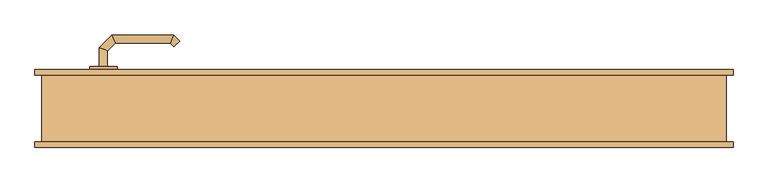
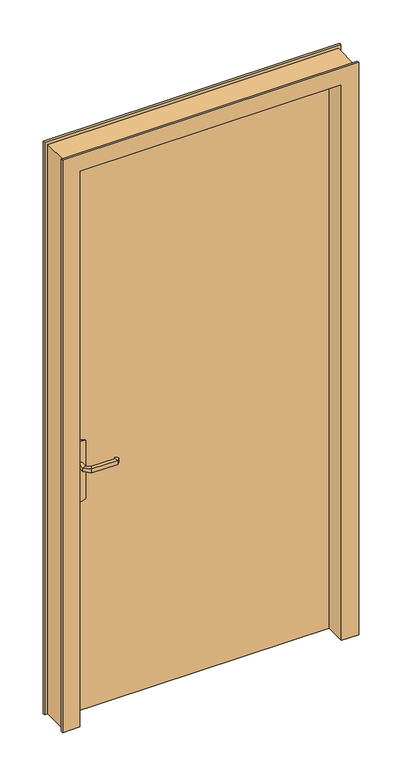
"""IFC4 building model written with IfcOpenShell, lengths in millimetres: door geometry, C&L Int. Simple vantail (dormant variable) : 93x204cm - (90) acoustique à peindre."""

from ifc_helpers import new_model, si_unit, point, frame, frame_2d, origin, origin_with_axes, place, context, project, spatial, polyline, circle_curve, ellipse_curve, trimmed, segment, composite_curve, outline, extrude, faceted_brep, source, transform, mapped, element, save
from ifc_brep_helpers import plane_surface, cylinder_surface, advanced_brep


def door_c507bf64(model_context):
    return source(origin(), model_context, "Body", "SolidModel", [
        extrude(outline(composite_curve([segment(trimmed(circle_curve(frame_2d((804.6410162, -410.0)), 40.0), [point((770.0, -430.0))], [point((770.0, -390.0))], False, "CARTESIAN"), True, "CONTINUOUS"), segment(polyline([(770.0, -390.0), (980.0, -390.0)]), True, "CONTINUOUS"), segment(trimmed(circle_curve(frame_2d((945.3589838, -410.0)), 40.0), [point((980.0, -390.0))], [point((980.0, -430.0))], False, "CARTESIAN"), True, "CONTINUOUS"), segment(polyline([(980.0, -430.0), (770.0, -430.0)]), True, "CONTINUOUS")], self_intersect=False)), frame((0.0, 57.0, 0.0), z_axis=(0.0, 1.0, 0.0), x_axis=(0.0, 0.0, 1.0)), (0.0, 0.0, 1.0), 5.0),
        extrude(outline(composite_curve([segment(trimmed(circle_curve(frame_2d((945.3589838, -410.0)), 40.0), [point((980.0, -390.0))], [point((980.0, -430.0))], False, "CARTESIAN"), True, "CONTINUOUS"), segment(polyline([(980.0, -430.0), (770.0, -430.0)]), True, "CONTINUOUS"), segment(trimmed(circle_curve(frame_2d((804.6410162, -410.0)), 40.0), [point((770.0, -430.0))], [point((770.0, -390.0))], False, "CARTESIAN"), True, "CONTINUOUS"), segment(polyline([(770.0, -390.0), (980.0, -390.0)]), True, "CONTINUOUS")], self_intersect=False)), frame((0.0, 12.0, 0.0), z_axis=(0.0, 1.0, 0.0), x_axis=(0.0, 0.0, 1.0)), (0.0, 0.0, 1.0), 5.0),
        advanced_brep(
        [(-416.0, 62.0, 907.0), (-416.0, 62.0, 893.0), (-404.0, 62.0, 893.0), (-404.0, 62.0, 907.0), (-404.0, 84.680388, 907.0), (-416.0, 89.6509507, 907.0), (-404.0, 84.680388, 893.0), (-416.0, 89.6509507, 893.0), (-392.6522273, 96.0281607, 907.0), (-397.62279, 108.0281607, 907.0), (-392.6522273, 96.0281607, 893.0), (-397.62279, 108.0281607, 893.0), (-312.4666408, 96.0281607, 907.0), (-307.496078, 108.0281607, 907.0), (-312.4666408, 96.0281607, 893.0), (-307.496078, 108.0281607, 893.0), (-298.6676509, 99.1997336, 907.0), (-307.1529323, 90.7144522, 907.0), (-307.1529323, 90.7144522, 893.0), (-298.6676509, 99.1997336, 893.0)],
        [
            (0, 1),
            (1, 2, circle_curve(frame((-410.0, 62.0, 913.0457722), z_axis=(0.0, -1.0, 0.0), x_axis=(1.0, 0.0, 0.0)), 20.9244589)),
            (2, 3),
            (3, 0, circle_curve(frame((-410.0, 62.0, 886.9542278), z_axis=(0.0, -1.0, 0.0), x_axis=(1.0, 0.0, 0.0)), 20.9244589)),
            (3, 4),
            (4, 5, ellipse_curve(frame((-410.0, 87.1656693, 886.9542278), z_axis=(-0.3826834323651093, -0.9238795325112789, 0.0), x_axis=(0.9238795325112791, -0.38268343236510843, 0.0)), 22.6484711, 20.9244589)),
            (5, 0),
            (2, 6),
            (6, 4),
            (1, 7),
            (7, 6, ellipse_curve(frame((-410.0, 87.1656693, 913.0457722), z_axis=(-0.3826834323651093, -0.9238795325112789, 0.0), x_axis=(0.9238795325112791, -0.38268343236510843, 0.0)), 22.6484711, 20.9244589)),
            (5, 7),
            (4, 8),
            (8, 9, ellipse_curve(frame((-395.1375086, 102.0281607, 886.9542278), z_axis=(-0.9238795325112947, -0.38268343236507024, 0.0), x_axis=(0.3826834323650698, -0.9238795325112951, 0.0)), 22.6484711, 20.9244589)),
            (9, 5),
            (6, 10),
            (10, 8),
            (7, 11),
            (11, 10, ellipse_curve(frame((-395.1375086, 102.0281607, 913.0457722), z_axis=(-0.9238795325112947, -0.38268343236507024, 0.0), x_axis=(0.3826834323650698, -0.9238795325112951, 0.0)), 22.6484711, 20.9244589)),
            (9, 11),
            (8, 12),
            (12, 13, ellipse_curve(frame((-309.9813594, 102.0281607, 886.9542278), z_axis=(-0.9238795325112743, 0.3826834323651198, 0.0), x_axis=(-0.38268343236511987, -0.9238795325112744, 0.0)), 22.6484711, 20.9244589)),
            (13, 9),
            (10, 14),
            (14, 12),
            (11, 15),
            (15, 14, ellipse_curve(frame((-309.9813594, 102.0281607, 913.0457722), z_axis=(-0.9238795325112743, 0.3826834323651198, 0.0), x_axis=(-0.38268343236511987, -0.9238795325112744, 0.0)), 22.6484711, 20.9244589)),
            (13, 15),
            (16, 17, circle_curve(frame((-302.9102916, 94.9570929, 886.9542278), z_axis=(0.7071067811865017, -0.7071067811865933, 0.0), x_axis=(-0.7071067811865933, -0.7071067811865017, 0.0)), 20.9244589)),
            (17, 18),
            (18, 19, circle_curve(frame((-302.9102916, 94.9570929, 913.0457722), z_axis=(0.7071067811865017, -0.7071067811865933, 0.0), x_axis=(-0.7071067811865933, -0.7071067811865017, 0.0)), 20.9244589)),
            (19, 16),
            (12, 17),
            (16, 13),
            (14, 18),
            (15, 19),
        ],
        [
            plane_surface(frame((-419.2195445, 62.0, 900.0), z_axis=(0.0, -1.0, 0.0), x_axis=(0.0, 0.0, -1.0))),
            cylinder_surface(frame((-410.0, 62.0, 886.9542278), z_axis=(0.0, -1.0, 0.0), x_axis=(1.0, 0.0, 0.0)), 20.9244589),
            plane_surface(frame((-404.0, 62.0, 907.0), z_axis=(1.0, 0.0, 0.0), x_axis=(0.0, 1.0, 0.0))),
            cylinder_surface(frame((-410.0, 62.0, 913.0457722), z_axis=(0.0, -1.0, 0.0), x_axis=(1.0, 0.0, 0.0)), 20.9244589),
            plane_surface(frame((-416.0, 62.0, 893.0), z_axis=(-1.0, 0.0, 0.0), x_axis=(0.0, 1.0, 0.0))),
            cylinder_surface(frame((-410.0, 87.1656693, 886.9542278), z_axis=(-0.7071067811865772, -0.7071067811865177, 0.0), x_axis=(0.7071067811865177, -0.7071067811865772, 0.0)), 20.9244589),
            plane_surface(frame((-404.0, 84.680388, 907.0), z_axis=(0.7071067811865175, -0.7071067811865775, 0.0), x_axis=(0.7071067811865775, 0.7071067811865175, 0.0))),
            cylinder_surface(frame((-410.0, 87.1656693, 913.0457722), z_axis=(-0.7071067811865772, -0.7071067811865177, 0.0), x_axis=(0.7071067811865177, -0.7071067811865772, 0.0)), 20.9244589),
            plane_surface(frame((-416.0, 89.6509507, 893.0), z_axis=(-0.7071067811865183, 0.7071067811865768, 0.0), x_axis=(0.7071067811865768, 0.7071067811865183, 0.0))),
            cylinder_surface(frame((-395.1375086, 102.0281607, 886.9542278), z_axis=(-1.0, 0.0, 0.0), x_axis=(0.0, -1.0, 0.0)), 20.9244589),
            plane_surface(frame((-392.6522273, 96.0281607, 907.0), z_axis=(0.0, -1.0, 0.0), x_axis=(1.0, 0.0, 0.0))),
            cylinder_surface(frame((-395.1375086, 102.0281607, 913.0457722), z_axis=(-1.0, 0.0, 0.0), x_axis=(0.0, -1.0, 0.0)), 20.9244589),
            plane_surface(frame((-397.62279, 108.0281607, 893.0), z_axis=(0.0, 1.0, 0.0), x_axis=(1.0, 0.0, 0.0))),
            plane_surface(frame((-302.9102916, 94.9570929, 909.2195445), z_axis=(0.7071067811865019, -0.7071067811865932, 0.0), x_axis=(0.7071067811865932, 0.7071067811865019, 0.0))),
            cylinder_surface(frame((-309.9813594, 102.0281607, 886.9542278), z_axis=(-0.7071067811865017, 0.7071067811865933, 0.0), x_axis=(-0.7071067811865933, -0.7071067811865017, 0.0)), 20.9244589),
            plane_surface(frame((-312.4666408, 96.0281607, 907.0), z_axis=(-0.7071067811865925, -0.7071067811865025, 0.0), x_axis=(0.7071067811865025, -0.7071067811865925, 0.0))),
            cylinder_surface(frame((-309.9813594, 102.0281607, 913.0457722), z_axis=(-0.7071067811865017, 0.7071067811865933, 0.0), x_axis=(-0.7071067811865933, -0.7071067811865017, 0.0)), 20.9244589),
            plane_surface(frame((-307.496078, 108.0281607, 893.0), z_axis=(0.707106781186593, 0.7071067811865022, 0.0), x_axis=(0.7071067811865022, -0.707106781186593, 0.0))),
        ],
        [
            (0, [[1, 2, 3, 4]]),
            (1, [[5, 6, 7, -4]]),
            (2, [[8, 9, -5, -3]]),
            (3, [[10, 11, -8, -2]]),
            (4, [[-7, 12, -10, -1]]),
            (5, [[13, 14, 15, -6]]),
            (6, [[16, 17, -13, -9]]),
            (7, [[18, 19, -16, -11]]),
            (8, [[-15, 20, -18, -12]]),
            (9, [[21, 22, 23, -14]]),
            (10, [[24, 25, -21, -17]]),
            (11, [[26, 27, -24, -19]]),
            (12, [[-23, 28, -26, -20]]),
            (13, [[29, 30, 31, 32]]),
            (14, [[33, -29, 34, -22]]),
            (15, [[35, -30, -33, -25]]),
            (16, [[36, -31, -35, -27]]),
            (17, [[-34, -32, -36, -28]]),
        ],
    ),
        advanced_brep(
        [(-404.0, 12.0, 893.0), (-416.0, 12.0, 893.0), (-416.0, 12.0, 907.0), (-404.0, 12.0, 907.0), (-404.0, -10.4852045, 907.0), (-404.0, -10.4852045, 893.0), (-416.0, -15.4557673, 907.0), (-416.0, -15.4557673, 893.0), (-392.5147186, -21.9704859, 907.0), (-392.5147186, -21.9704859, 893.0), (-397.4852814, -33.9704859, 907.0), (-397.4852814, -33.9704859, 893.0), (-312.4394977, -21.9704859, 907.0), (-312.4394977, -21.9704859, 893.0), (-307.468935, -33.9704859, 907.0), (-307.468935, -33.9704859, 893.0), (-307.1257892, -16.6567774, 893.0), (-307.1257892, -16.6567774, 907.0), (-298.6405078, -25.1420588, 907.0), (-298.6405078, -25.1420588, 893.0)],
        [
            (0, 1, circle_curve(frame((-410.0, 12.0, 913.0457722), z_axis=(0.0, 1.0, 0.0), x_axis=(-1.0, 0.0, 0.0)), 20.9244589)),
            (1, 2),
            (2, 3, circle_curve(frame((-410.0, 12.0, 886.9542278), z_axis=(0.0, 1.0, 0.0), x_axis=(-1.0, 0.0, 0.0)), 20.9244589)),
            (3, 0),
            (3, 4),
            (4, 5),
            (5, 0),
            (2, 6),
            (6, 4, ellipse_curve(frame((-410.0, -12.9704859, 886.9542278), z_axis=(-0.3826834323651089, 0.9238795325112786, 0.0), x_axis=(0.9238795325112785, 0.3826834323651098, 0.0)), 22.6484711, 20.9244589)),
            (1, 7),
            (7, 6),
            (5, 7, ellipse_curve(frame((-410.0, -12.9704859, 913.0457722), z_axis=(-0.3826834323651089, 0.9238795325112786, 0.0), x_axis=(0.9238795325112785, 0.3826834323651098, 0.0)), 22.6484711, 20.9244589)),
            (4, 8),
            (8, 9),
            (9, 5),
            (6, 10),
            (10, 8, ellipse_curve(frame((-395.0, -27.9704859, 886.9542278), z_axis=(-0.9238795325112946, 0.38268343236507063, 0.0), x_axis=(0.3826834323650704, 0.9238795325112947, 0.0)), 22.6484711, 20.9244589)),
            (7, 11),
            (11, 10),
            (9, 11, ellipse_curve(frame((-395.0, -27.9704859, 913.0457722), z_axis=(-0.9238795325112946, 0.38268343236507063, 0.0), x_axis=(0.3826834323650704, 0.9238795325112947, 0.0)), 22.6484711, 20.9244589)),
            (8, 12),
            (12, 13),
            (13, 9),
            (10, 14),
            (14, 12, ellipse_curve(frame((-309.9542163, -27.9704859, 886.9542278), z_axis=(-0.9238795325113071, -0.38268343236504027, 0.0), x_axis=(-0.38268343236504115, 0.9238795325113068, 0.0)), 22.6484711, 20.9244589)),
            (11, 15),
            (15, 14),
            (13, 15, ellipse_curve(frame((-309.9542163, -27.9704859, 913.0457722), z_axis=(-0.9238795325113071, -0.38268343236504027, 0.0), x_axis=(-0.38268343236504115, 0.9238795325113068, 0.0)), 22.6484711, 20.9244589)),
            (16, 17),
            (17, 18, circle_curve(frame((-302.8831485, -20.8994181, 886.9542278), z_axis=(0.7071067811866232, 0.7071067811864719, 0.0), x_axis=(0.7071067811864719, -0.7071067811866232, 0.0)), 20.9244589)),
            (18, 19),
            (19, 16, circle_curve(frame((-302.8831485, -20.8994181, 913.0457722), z_axis=(0.7071067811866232, 0.7071067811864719, 0.0), x_axis=(0.7071067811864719, -0.7071067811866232, 0.0)), 20.9244589)),
            (12, 17),
            (16, 13),
            (14, 18),
            (15, 19),
        ],
        [
            plane_surface(frame((-419.2195445, 12.0, 900.0), z_axis=(0.0, 1.0, 0.0), x_axis=(0.0, 0.0, 1.0))),
            plane_surface(frame((-404.0, 12.0, 893.0), z_axis=(1.0, 0.0, 0.0), x_axis=(0.0, -1.0, 0.0))),
            cylinder_surface(frame((-410.0, 12.0, 886.9542278), z_axis=(0.0, 1.0, 0.0), x_axis=(-1.0, 0.0, 0.0)), 20.9244589),
            plane_surface(frame((-416.0, 12.0, 907.0), z_axis=(-1.0, 0.0, 0.0), x_axis=(0.0, -1.0, 0.0))),
            cylinder_surface(frame((-410.0, 12.0, 913.0457722), z_axis=(0.0, 1.0, 0.0), x_axis=(-1.0, 0.0, 0.0)), 20.9244589),
            plane_surface(frame((-404.0, -10.4852045, 893.0), z_axis=(0.707106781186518, 0.707106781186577, 0.0), x_axis=(0.707106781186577, -0.707106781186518, 0.0))),
            cylinder_surface(frame((-410.0, -12.9704859, 886.9542278), z_axis=(-0.7071067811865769, 0.7071067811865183, 0.0), x_axis=(-0.7071067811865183, -0.7071067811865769, 0.0)), 20.9244589),
            plane_surface(frame((-416.0, -15.4557673, 907.0), z_axis=(-0.7071067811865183, -0.7071067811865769, 0.0), x_axis=(0.7071067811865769, -0.7071067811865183, 0.0))),
            cylinder_surface(frame((-410.0, -12.9704859, 913.0457722), z_axis=(-0.7071067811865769, 0.7071067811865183, 0.0), x_axis=(-0.7071067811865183, -0.7071067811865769, 0.0)), 20.9244589),
            plane_surface(frame((-392.5147186, -21.9704859, 893.0), z_axis=(0.0, 1.0, 0.0), x_axis=(1.0, 0.0, 0.0))),
            cylinder_surface(frame((-395.0, -27.9704859, 886.9542278), z_axis=(-1.0, 0.0, 0.0), x_axis=(0.0, -1.0, 0.0)), 20.9244589),
            plane_surface(frame((-397.4852814, -33.9704859, 907.0), z_axis=(0.0, -1.0, 0.0), x_axis=(1.0, 0.0, 0.0))),
            cylinder_surface(frame((-395.0, -27.9704859, 913.0457722), z_axis=(-1.0, 0.0, 0.0), x_axis=(0.0, -1.0, 0.0)), 20.9244589),
            plane_surface(frame((-302.8831485, -20.8994181, 890.7804555), z_axis=(0.7071067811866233, 0.7071067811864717, 0.0), x_axis=(0.7071067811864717, -0.7071067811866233, 0.0))),
            plane_surface(frame((-312.4394977, -21.9704859, 893.0), z_axis=(-0.7071067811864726, 0.7071067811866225, 0.0), x_axis=(0.7071067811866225, 0.7071067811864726, 0.0))),
            cylinder_surface(frame((-309.9542163, -27.9704859, 886.9542278), z_axis=(-0.7071067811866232, -0.7071067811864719, 0.0), x_axis=(0.7071067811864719, -0.7071067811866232, 0.0)), 20.9244589),
            plane_surface(frame((-307.468935, -33.9704859, 907.0), z_axis=(0.7071067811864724, -0.7071067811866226, 0.0), x_axis=(0.7071067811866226, 0.7071067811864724, 0.0))),
            cylinder_surface(frame((-309.9542163, -27.9704859, 913.0457722), z_axis=(-0.7071067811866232, -0.7071067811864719, 0.0), x_axis=(0.7071067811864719, -0.7071067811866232, 0.0)), 20.9244589),
        ],
        [
            (0, [[1, 2, 3, 4]]),
            (1, [[5, 6, 7, -4]]),
            (2, [[8, 9, -5, -3]]),
            (3, [[10, 11, -8, -2]]),
            (4, [[-7, 12, -10, -1]]),
            (5, [[13, 14, 15, -6]]),
            (6, [[16, 17, -13, -9]]),
            (7, [[18, 19, -16, -11]]),
            (8, [[-15, 20, -18, -12]]),
            (9, [[21, 22, 23, -14]]),
            (10, [[24, 25, -21, -17]]),
            (11, [[26, 27, -24, -19]]),
            (12, [[-23, 28, -26, -20]]),
            (13, [[29, 30, 31, 32]]),
            (14, [[33, -29, 34, -22]]),
            (15, [[35, -30, -33, -25]]),
            (16, [[36, -31, -35, -27]]),
            (17, [[-34, -32, -36, -28]]),
        ],
    ),
        faceted_brep([(-500.0, 49.0, 0.0), (-510.0, 49.0, 0.0), (-510.0, 57.0, 0.0), (-465.0, 57.0, 0.0), (-465.0, 17.0, 0.0), (-450.0, 17.0, 0.0), (-450.0, -57.0, 0.0), (-510.0, -57.0, 0.0), (-510.0, -49.0, 0.0), (-500.0, -49.0, 0.0), (-500.0, -49.0, 2075.0), (-500.0, 49.0, 2075.0), (-510.0, -49.0, 2085.0), (510.0, -49.0, 2085.0), (510.0, -49.0, 0.0), (500.0, -49.0, 0.0), (500.0, -49.0, 2075.0), (-510.0, -57.0, 2085.0), (-450.0, -57.0, 2025.0), (450.0, -57.0, 2025.0), (450.0, -57.0, 0.0), (510.0, -57.0, 0.0), (510.0, -57.0, 2085.0), (-450.0, 17.0, 2025.0), (-465.0, 17.0, 2040.0), (465.0, 17.0, 2040.0), (465.0, 17.0, 0.0), (450.0, 17.0, 0.0), (450.0, 17.0, 2025.0), (-465.0, 57.0, 2040.0), (-510.0, 57.0, 2085.0), (510.0, 57.0, 2085.0), (510.0, 57.0, 0.0), (465.0, 57.0, 0.0), (465.0, 57.0, 2040.0), (-510.0, 49.0, 2085.0), (500.0, 49.0, 2075.0), (500.0, 49.0, 0.0), (510.0, 49.0, 0.0), (510.0, 49.0, 2085.0)], [[[0, 1, 2, 3, 4, 5, 6, 7, 8, 9]], [[9, 10, 11, 0]], [[8, 12, 13, 14, 15, 16, 10, 9]], [[7, 17, 12, 8]], [[6, 18, 19, 20, 21, 22, 17, 7]], [[5, 23, 18, 6]], [[4, 24, 25, 26, 27, 28, 23, 5]], [[3, 29, 24, 4]], [[2, 30, 31, 32, 33, 34, 29, 3]], [[1, 35, 30, 2]], [[0, 11, 36, 37, 38, 39, 35, 1]], [[10, 16, 36, 11]], [[17, 22, 13, 12]], [[23, 28, 19, 18]], [[29, 34, 25, 24]], [[35, 39, 31, 30]], [[37, 15, 14, 21, 20, 27, 26, 33, 32, 38]], [[16, 15, 37, 36]], [[22, 21, 14, 13]], [[28, 27, 20, 19]], [[34, 33, 26, 25]], [[39, 38, 32, 31]]]),
        extrude(outline(polyline([(465.0, 57.0), (465.0, 17.0), (-465.0, 17.0), (-465.0, 57.0), (465.0, 57.0)])), origin_with_axes(), (0.0, 0.0, 1.0), 2040.0),
    ])


if __name__ == "__main__":
    model = new_model("IFC4")
    model_context = context("Model", 3, world=origin())
    ifc_project = project(units=[si_unit("LENGTHUNIT", "METRE", prefix="MILLI")], contexts=[model_context])
    site = spatial("IfcSite", under=ifc_project)
    building = spatial("IfcBuilding", under=site)
    placement = place(None, origin())
    door_shape = door_c507bf64(model_context)
    element("IfcDoor", 1, ObjectType="C&L Int. Simple vantail (dormant variable) : 93x204cm - (90) acoustique à peindre", at=placement, inside=building, context=model_context, shape_type="MappedRepresentation", body=[
        mapped(door_shape, transform((0.0, 0.0, 0.0), x_axis=(1.0, 0.0, 0.0), y_axis=(0.0, 1.0, 0.0), z_axis=(0.0, 0.0, 1.0))),
    ])
    save(model, "model.ifc")
